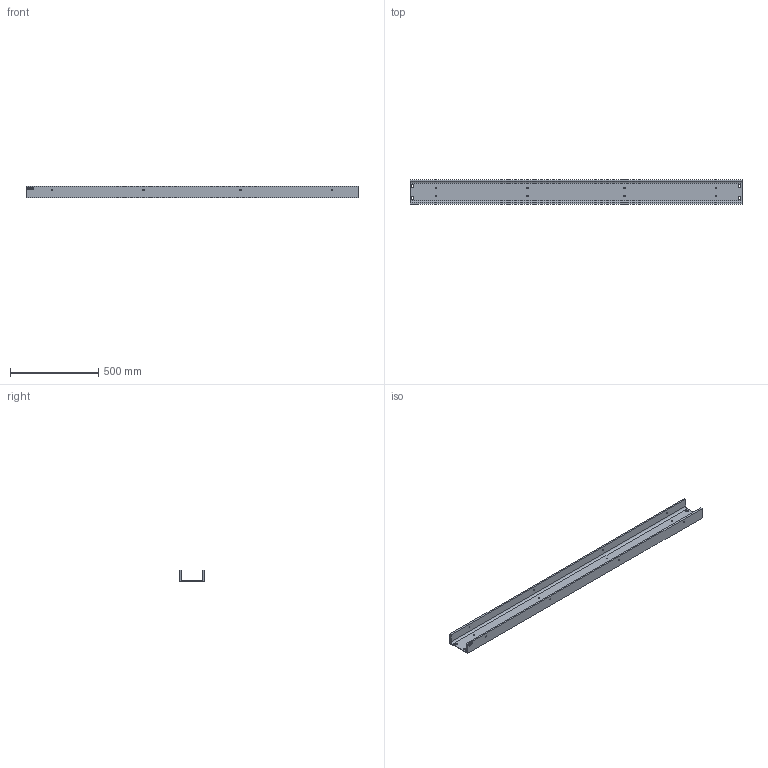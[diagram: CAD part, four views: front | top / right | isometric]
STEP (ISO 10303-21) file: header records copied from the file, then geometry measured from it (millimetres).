
FILE_DESCRIPTION (( 'STEP AP214' ), '1' );
FILE_NAME ('CCJ029-REP.032 - RAIL GUIDAGE INFERIEUR.STEP', '2025-02-13T08:23:38', ( '' ), ( '' ), 'SwSTEP 2.0', 'SolidWorks 2021', '' );
FILE_SCHEMA (( 'AUTOMOTIVE_DESIGN' ));
Length unit declared in the file: millimetre
Products named in the file (1): CCJ029-REP.032 - RAIL GUIDAGE INFERIEUR
Bounding box: 1880 x 140 x 65 mm (x, y, z)
Volume: 3454671.4 mm3; surface area: 981587.1 mm2
Topology: 1 solids, 1 shells, 94 faces, 264 edges, 176 vertices
Faces by surface type: cylinder 42, bspline 29, plane 23
Entity records: 4936 total; most frequent: CARTESIAN_POINT 2508, ORIENTED_EDGE 528, DIRECTION 422, EDGE_CURVE 264, VERTEX_POINT 176, AXIS2_PLACEMENT_3D 150, EDGE_LOOP 138, LINE 122
